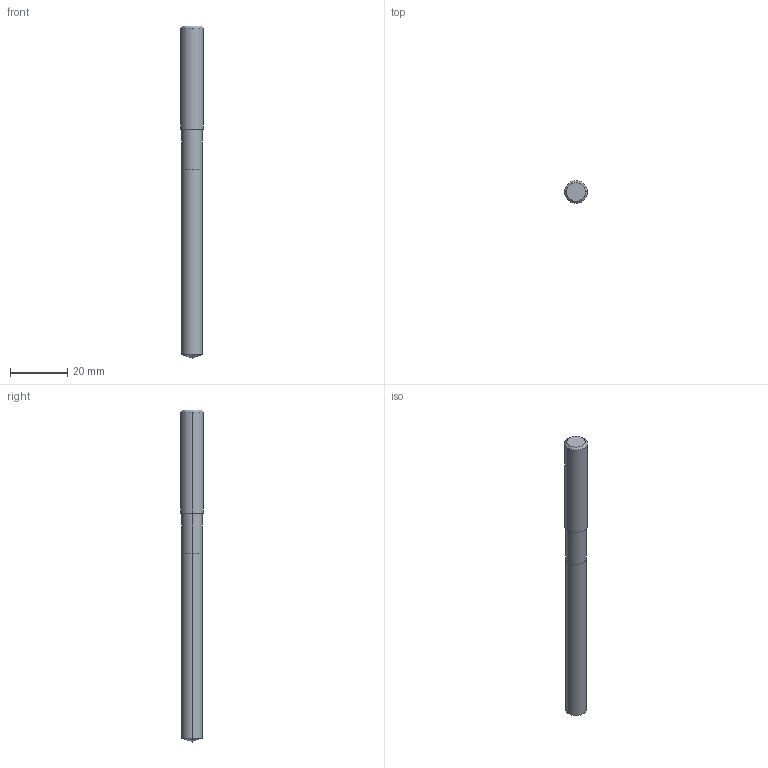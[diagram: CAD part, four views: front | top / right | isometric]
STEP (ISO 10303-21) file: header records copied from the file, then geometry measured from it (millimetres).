
FILE_DESCRIPTION(('STEP AP214'),'1');
FILE_NAME('cctmp_DF7E018F-F07E-4388-971B-6A68E978829F_2020_11_02_13_40_42_0830..stp','2020-11-02T12:40:42',('Meusburger Georg GmbH & Co KG'),('CADClick - www.CADClick.com'),'Spatial InterOp 3D',' ','unknown authorization');
FILE_SCHEMA(('AUTOMOTIVE_DESIGN { 1 0 10303 214 1 1 1 1 }'));
Length unit declared in the file: millimetre
Products named in the file (1): WZB10223_7.1
Bounding box: 8 x 8 x 116 mm (x, y, z)
Volume: 4934.8 mm3; surface area: 2746.5 mm2
Topology: 1 solids, 1 shells, 14 faces, 28 edges, 15 vertices
Faces by surface type: cylinder 6, cone 6, plane 2
Entity records: 484 total; most frequent: DIRECTION 70, CARTESIAN_POINT 56, ORIENTED_EDGE 52, AXIS2_PLACEMENT_3D 29, EDGE_CURVE 26, STYLED_ITEM 15, PRESENTATION_STYLE_ASSIGNMENT 15, SURFACE_STYLE_USAGE 15
